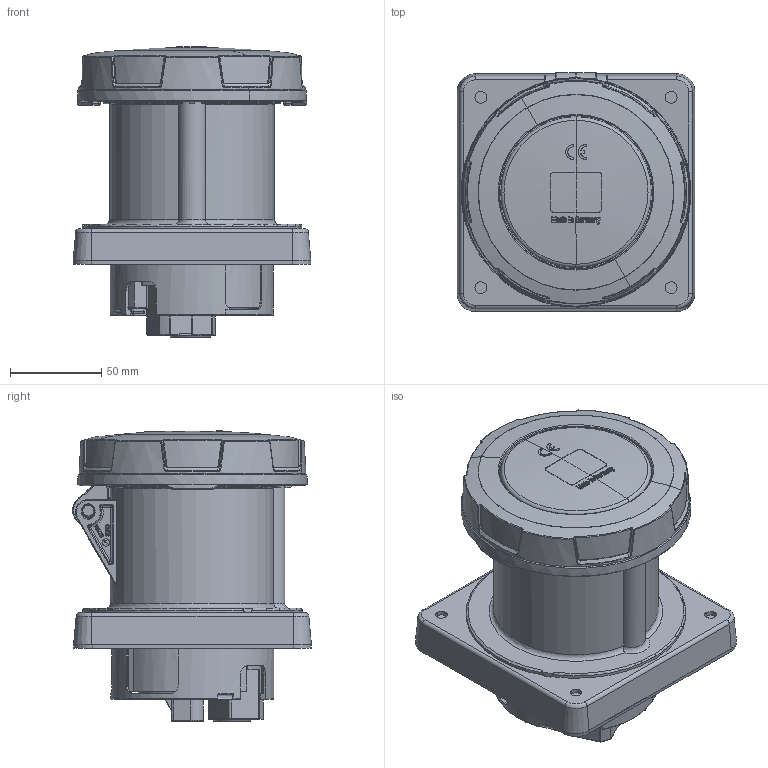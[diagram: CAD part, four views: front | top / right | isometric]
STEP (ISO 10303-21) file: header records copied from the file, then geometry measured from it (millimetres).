
FILE_DESCRIPTION((''),'2;1');
FILE_NAME('1113269_ASM_SW0001','2017-10-12T',('gisse'),('MENNEKES'),'PRO/ENGINEER BY PARAMETRIC TECHNOLOGY CORPORATION, 2015440','PRO/ENGINEER BY PARAMETRIC TECHNOLOGY CORPORATION, 2015440','');
FILE_SCHEMA(('AUTOMOTIVE_DESIGN { 1 0 10303 214 1 1 1 1 }'));
Length unit declared in the file: millimetre
Products named in the file (1): 1113269_ASM_SW0001
Bounding box: 130 x 130.64 x 158.8 mm (x, y, z)
Volume: 1272878.7 mm3; surface area: 113271.2 mm2
Topology: 1 solids, 1 shells, 2392 faces, 6474 edges, 4154 vertices
Faces by surface type: plane 1384, cylinder 278, bspline 257, extrusion 179, cone 121, torus 108, sphere 65
Entity records: 135611 total; most frequent: CARTESIAN_POINT 28691, ORIENTED_EDGE 12944, DIRECTION 10678, PRESENTATION_STYLE_ASSIGNMENT 9031, STYLED_ITEM 6652, CURVE_STYLE 6651, EDGE_CURVE 6472, FILL_AREA_STYLE_COLOUR 4757
